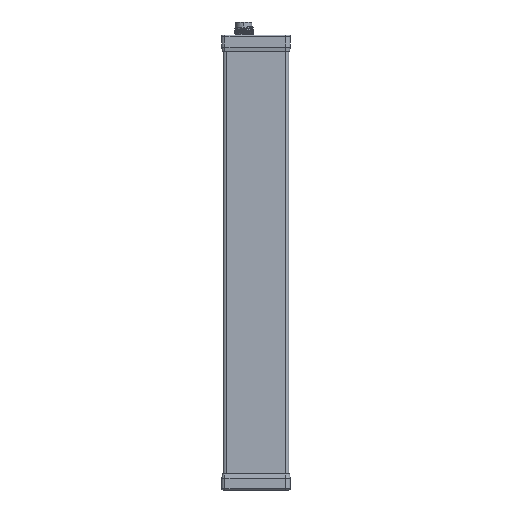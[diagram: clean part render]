
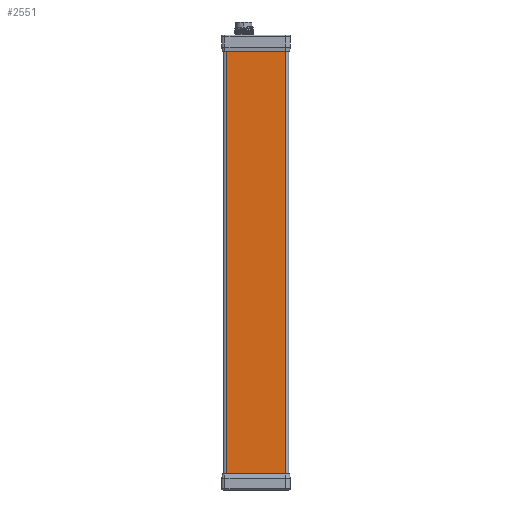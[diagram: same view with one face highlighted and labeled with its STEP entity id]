
A CAD part, left-side view. The second image highlights one B-rep face of the part: STEP entity #2551.
In plain terms, the highlighted planar face has unit normal (-1, 0, 0).
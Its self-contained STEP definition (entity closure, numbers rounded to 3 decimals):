
#2551 = ADVANCED_FACE ( 'NONE', ( #12934 ), #12960, .T. ) ;
#2552 = EDGE_LOOP ( 'NONE', ( #2553, #2556, #2557, #2562 ) ) ;
#2553 = ORIENTED_EDGE ( 'NONE', *, *, #2554, .F. ) ;
#2554 = EDGE_CURVE ( 'NONE', #2889, #2555, #12955, .T. ) ;
#2555 = VERTEX_POINT ( 'NONE', #12951 ) ;
#2556 = ORIENTED_EDGE ( 'NONE', *, *, #2888, .T. ) ;
#2557 = ORIENTED_EDGE ( 'NONE', *, *, #2559, .F. ) ;
#2559 = EDGE_CURVE ( 'NONE', #2560, #2886, #12950, .T. ) ;
#2560 = VERTEX_POINT ( 'NONE', #12834 ) ;
#2562 = ORIENTED_EDGE ( 'NONE', *, *, #2563, .T. ) ;
#2563 = EDGE_CURVE ( 'NONE', #2560, #2555, #12833, .T. ) ;
#2886 = VERTEX_POINT ( 'NONE', #13619 ) ;
#2888 = EDGE_CURVE ( 'NONE', #2889, #2886, #13577, .T. ) ;
#2889 = VERTEX_POINT ( 'NONE', #13578 ) ;
#12830 = DIRECTION ( 'NONE',  ( 0., 0., 1. ) ) ;
#12831 = VECTOR ( 'NONE', #12830, 1000. ) ;
#12832 = CARTESIAN_POINT ( 'NONE',  ( -44.402, -12.274, -137. ) ) ;
#12833 = LINE ( 'NONE', #12832, #12831 ) ;
#12834 = CARTESIAN_POINT ( 'NONE',  ( -44.402, -12.274, -429. ) ) ;
#12835 = DIRECTION ( 'NONE',  ( 0., 1., 0. ) ) ;
#12836 = VECTOR ( 'NONE', #12835, 1000. ) ;
#12837 = CARTESIAN_POINT ( 'NONE',  ( -44.402, -44.986, -429. ) ) ;
#12934 = FACE_OUTER_BOUND ( 'NONE', #2552, .T. ) ;
#12950 = LINE ( 'NONE', #12837, #12836 ) ;
#12951 = CARTESIAN_POINT ( 'NONE',  ( -44.402, -12.274, -139. ) ) ;
#12952 = DIRECTION ( 'NONE',  ( 0., -1., 0. ) ) ;
#12953 = VECTOR ( 'NONE', #12952, 1000. ) ;
#12954 = CARTESIAN_POINT ( 'NONE',  ( -44.402, -44.986, -139. ) ) ;
#12955 = LINE ( 'NONE', #12954, #12953 ) ;
#12956 = DIRECTION ( 'NONE',  ( 0., -1., 0. ) ) ;
#12957 = DIRECTION ( 'NONE',  ( -1., 0., 0. ) ) ;
#12958 = CARTESIAN_POINT ( 'NONE',  ( -44.402, -44.986, -137. ) ) ;
#12959 = AXIS2_PLACEMENT_3D ( 'NONE', #12958, #12957, #12956 ) ;
#12960 = PLANE ( 'NONE',  #12959 ) ;
#13574 = DIRECTION ( 'NONE',  ( 0., 0., -1. ) ) ;
#13575 = VECTOR ( 'NONE', #13574, 1000. ) ;
#13576 = CARTESIAN_POINT ( 'NONE',  ( -44.402, 28.726, -137. ) ) ;
#13577 = LINE ( 'NONE', #13576, #13575 ) ;
#13578 = CARTESIAN_POINT ( 'NONE',  ( -44.402, 28.726, -139. ) ) ;
#13619 = CARTESIAN_POINT ( 'NONE',  ( -44.402, 28.726, -429. ) ) ;
